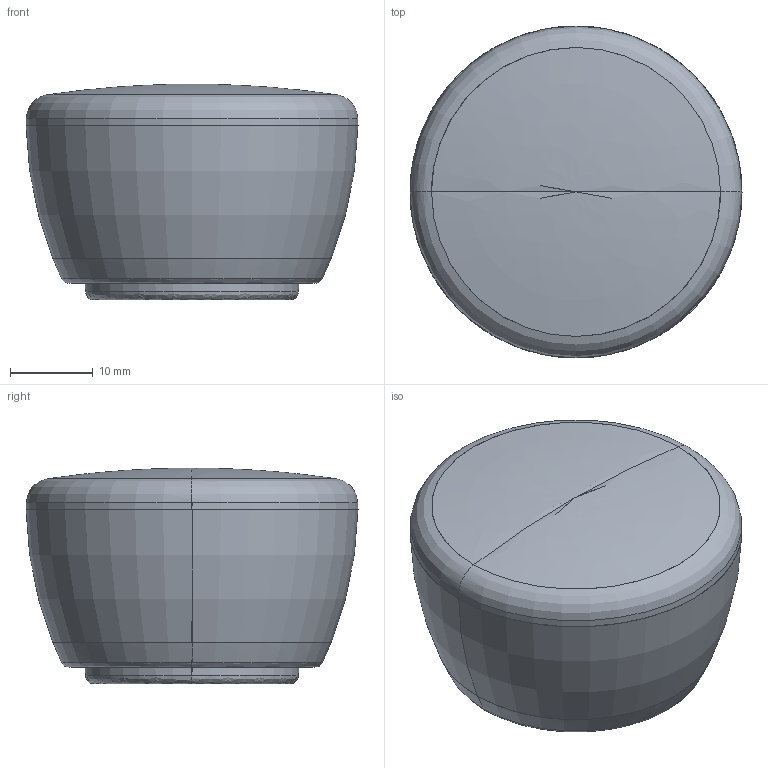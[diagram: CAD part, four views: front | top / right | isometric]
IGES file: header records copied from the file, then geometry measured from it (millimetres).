
Start section: Comment
Global section: file name: 8249-40.igs; native system: Parasolid(12.0); preprocessor: Pariges 4.4; author: Author; organization: Title; date: 20181104.074901; units: millimetre
Bounding box: 40 x 40 x 26 mm (x, y, z)
Surface area: 12979.7 mm2 (no closed solid volume)
Topology: 0 solids, 0 shells, 264 faces, 2817 edges, 2813 vertices
Faces by surface type: extrusion 95, revolution 89, bspline 80
